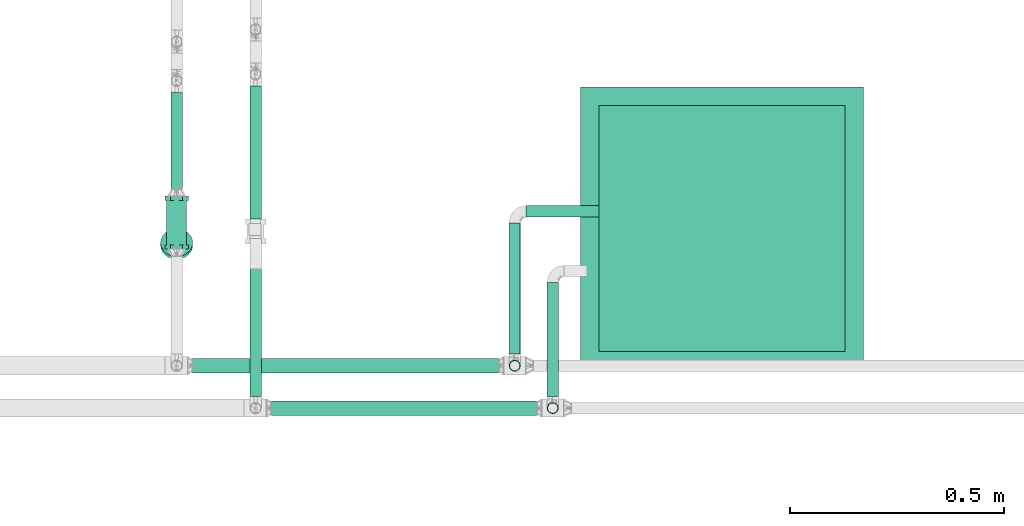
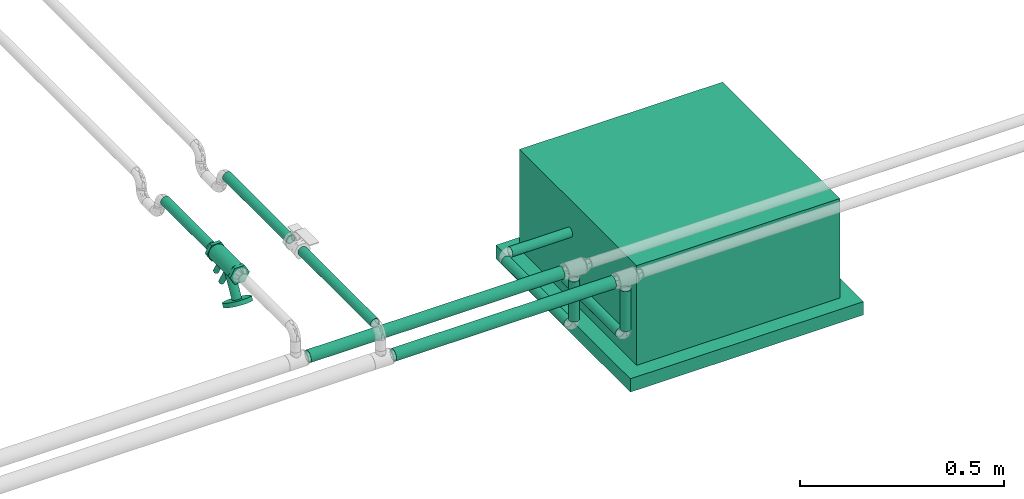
# One storey, part 9 of 35: 10 flow segments, 1 energy conversion device, 1 flow controller.
"""IFC2X3 building model written with IfcOpenShell, lengths in millimetres."""

from ifc_helpers import new_model, entity, si_unit, converted_unit, derived_unit, direction, frame, origin_with_axes, origin_2d_with_axis, place, context, subcontext, project, spatial, hollow_circle, extrude, open_shell, surface_model, source, transform, mapped, type_object, element, save


model = new_model("IFC2X3")

# Units and contexts
model_context = context("Model", 3, precision=0.01, world=frame((0.0, 4.29681676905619e-09, 0.0)), true_north=direction((4.01073788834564e-13, 1.0)))
plan_context = context("Plan", 3, precision=0.01, world=frame((0.0, 4.29681676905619e-09, 0.0)), true_north=direction((4.01073788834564e-13, 1.0)))
body_context = subcontext(model_context, "Body", "Model", "MODEL_VIEW")
ifc_project = project(units=[converted_unit("PLANEANGLEUNIT", "DEGREE", entity("IfcPositiveLengthMeasure", 0.0174532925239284), si_unit("PLANEANGLEUNIT", "RADIAN"), dimensions=[0, 0, 0, 0, 0, 0, 0]), si_unit("AREAUNIT", "SQUARE_METRE"), si_unit("LENGTHUNIT", "METRE", prefix="MILLI"), si_unit("MASSUNIT", "GRAM", prefix="KILO"), si_unit("POWERUNIT", "WATT"), si_unit("PRESSUREUNIT", "PASCAL"), si_unit("FORCEUNIT", "NEWTON", prefix="KILO"), si_unit("ELECTRICVOLTAGEUNIT", "VOLT"), si_unit("ELECTRICCURRENTUNIT", "AMPERE"), si_unit("THERMODYNAMICTEMPERATUREUNIT", "DEGREE_CELSIUS"), si_unit("TIMEUNIT", "SECOND"), si_unit("VOLUMEUNIT", "CUBIC_METRE"), derived_unit("LINEARVELOCITYUNIT", [(si_unit("LENGTHUNIT", "METRE"), 1), (si_unit("TIMEUNIT", "SECOND"), -1)]), derived_unit("VOLUMETRICFLOWRATEUNIT", [(si_unit("VOLUMEUNIT", "CUBIC_METRE"), 1), (si_unit("TIMEUNIT", "SECOND"), -1)]), derived_unit("THERMALTRANSMITTANCEUNIT", [(si_unit("POWERUNIT", "WATT"), 1), (si_unit("THERMODYNAMICTEMPERATUREUNIT", "KELVIN"), -1), (si_unit("AREAUNIT", "SQUARE_METRE"), -1)]), derived_unit("SOUNDPRESSUREUNIT", [(si_unit("PRESSUREUNIT", "PASCAL"), 1)])], contexts=[model_context, plan_context])

# Site, building, storey
site_placement = place(None, frame((0.0, -4.29681676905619e-09, 0.0), z_axis=(0.0, 0.0, 1.0), x_axis=(1.0, 0.0, 0.0)))
site = spatial("IfcSite", under=ifc_project, at=site_placement, Name="ENGM", CompositionType="ELEMENT")
building_placement = place(site_placement, frame((0.0, 4.29681676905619e-09, 0.0), z_axis=(0.0, 0.0, 1.0), x_axis=(1.0, 0.0, 0.0)))
building = spatial("IfcBuilding", under=site, at=building_placement, Name="TH", CompositionType="ELEMENT")
storey_placement = place(building_placement, frame((0.0, 0.0, 210200.0), z_axis=(0.0, 0.0, 1.0), x_axis=(1.0, 0.0, 0.0)))
storey = spatial("IfcBuildingStorey", under=building, at=storey_placement, Name="Nivå F - 0,7 m", CompositionType="ELEMENT", Elevation=210200.0)

# Energy conversion device
coil_type = type_object("IfcCoilType", Name="GCS2.UWW.K01", PredefinedType="WATERHEATINGCOIL")
shared_shape_1 = source(origin_with_axes(), body_context, "Body", "SurfaceModel", [
    surface_model("IfcShellBasedSurfaceModel", [(-329.99999, 329.99999, 0.0), (-329.99999, -329.99999, 0.0), (329.99999, -329.99999, 0.0), (329.99999, 329.99999, 0.0), (329.99999, 329.99999, -40.0), (329.99999, -329.99999, -40.0), (-329.99999, -329.99999, -40.0), (-329.99999, 329.99999, -40.0), (-287.5, 287.5, 25.0), (-287.5, -287.5, 25.0), (287.5, -287.5, 25.0), (287.5, 287.5, 25.0), (287.5, 287.5, 0.0), (287.5, -287.5, 0.0), (-287.5, -287.5, 0.0), (-287.5, 287.5, 0.0), (-287.5, 287.5, 298.0), (-287.5, -287.5, 298.0), (287.5, -287.5, 298.0), (287.5, 287.5, 298.0)], [open_shell([[[0, 1, 2]], [[2, 3, 0]], [[4, 5, 6]], [[6, 7, 4]], [[2, 1, 6]], [[6, 5, 2]], [[3, 2, 5]], [[5, 4, 3]], [[0, 3, 4]], [[4, 7, 0]], [[1, 0, 7]], [[7, 6, 1]], [[8, 9, 10]], [[10, 11, 8]], [[12, 13, 14]], [[14, 15, 12]], [[10, 9, 14]], [[14, 13, 10]], [[11, 10, 13]], [[13, 12, 11]], [[8, 11, 12]], [[12, 15, 8]], [[9, 8, 15]], [[15, 14, 9]], [[16, 17, 18]], [[18, 19, 16]], [[11, 10, 9]], [[9, 8, 11]], [[18, 17, 10]], [[9, 10, 17]], [[19, 18, 11]], [[10, 11, 18]], [[16, 19, 8]], [[11, 8, 19]], [[17, 16, 9]], [[8, 9, 16]]])]),
])
energy_conversion_device_placement = place(storey_placement, frame((901310.0, 481615.40642, 2600.0), z_axis=(0.0, 0.0, 1.0), x_axis=(0.0, -1.0, 0.0)))
element("IfcEnergyConversionDevice", 1, at=energy_conversion_device_placement, inside=storey, type_object=coil_type, Name="GCS2.UWW.K01", context=body_context, shape_type="MappedRepresentation", body=[
    mapped(shared_shape_1, transform((0.0, 0.0, 0.0), scale=1.0)),
])

# Flow controller
valve_type = type_object("IfcValveType", Name="STAD/F-32", PredefinedType="NOTDEFINED")
shared_shape_2 = source(origin_with_axes(), body_context, "Body", "SurfaceModel", [
    surface_model("IfcShellBasedSurfaceModel", [(62.0, 13.86, -24.00622), (62.0, 27.72, 0.0), (62.0, -13.86, -24.00622), (62.0, 13.86, 24.00622), (62.0, -13.86, 24.00622), (62.0, -27.72, 0.0), (52.0, -27.72, 0.0), (52.0, -13.86, 24.00622), (52.0, -13.86, -24.00622), (52.0, 27.72, 0.0), (52.0, 13.86, -24.00622), (52.0, 13.86, 24.00622), (-62.0, -13.86, -24.00622), (-62.0, -27.72, 0.0), (-62.0, 13.86, -24.00622), (-62.0, -13.86, 24.00622), (-62.0, 13.86, 24.00622), (-62.0, 27.72, 0.0), (-52.0, 27.72, 0.0), (-52.0, 13.86, 24.00622), (-52.0, 13.86, -24.00622), (-52.0, -27.72, 0.0), (-52.0, -13.86, -24.00622), (-52.0, -13.86, 24.00622), (61.40539, 36.22222, -86.94584), (69.23797, 32.47595, -82.42369), (75.96396, 26.5165, -78.54045), (36.76202, 32.47595, -101.17369), (84.36936, 9.70571, -73.68759), (81.125, 18.75, -75.56072), (21.63063, -9.70571, -109.90981), (21.63063, 9.70571, -109.90981), (44.5946, 36.22222, -96.65155), (52.99999, 37.5, -91.79869), (30.03603, 26.5165, -105.05695), (24.87499, 18.75, -108.03667), (85.47595, 0.0, -73.0487), (52.99999, -37.5, -91.79869), (84.36936, -9.70571, -73.68759), (81.125, -18.75, -75.56072), (69.23797, -32.47595, -82.42369), (75.96396, -26.5165, -78.54045), (61.40539, -36.22222, -86.94584), (24.87499, -18.75, -108.03667), (20.52404, 0.0, -110.54869), (36.76202, -32.47595, -101.17369), (30.03603, -26.5165, -105.05695), (44.5946, -36.22222, -96.65155), (78.36936, -9.70571, -63.29528), (47.0, -37.5, -81.40639), (55.40539, -36.22222, -76.55353), (63.23797, -32.47595, -72.03139), (75.125, -18.75, -65.16841), (69.96396, -26.5165, -68.14814), (15.63063, -9.70571, -99.5175), (38.5946, -36.22222, -86.25925), (24.03603, -26.5165, -94.66464), (30.76202, -32.47595, -90.78139), (18.87499, -18.75, -97.64437), (15.63063, 9.70571, -99.5175), (14.52404, 0.0, -100.15639), (69.96396, 26.5165, -68.14814), (78.36936, 9.70571, -63.29528), (75.125, 18.75, -65.16841), (63.23797, 32.47595, -72.03139), (55.40539, 36.22222, -76.55353), (30.76202, 32.47595, -90.78139), (18.87499, 18.75, -97.64437), (24.03603, 26.5165, -94.66464), (47.0, 37.5, -81.40639), (38.5946, 36.22222, -86.25925), (79.47595, 0.0, -62.65639), (52.0, 11.55, -20.00519), (52.0, -5.97872, -22.31289), (52.0, 5.97872, -22.31289), (52.0, 20.00519, -11.55), (52.0, 16.33417, -16.33417), (52.0, -22.31289, -5.97872), (52.0, 22.31289, -5.97872), (52.0, -16.33417, 16.33417), (52.0, -11.55, -20.00519), (52.0, 0.0, -23.1), (52.0, -16.33417, -16.33417), (52.0, -20.00519, -11.55), (52.0, 23.1, 0.0), (52.0, 22.31289, 5.97872), (52.0, 20.00519, 11.55), (52.0, 16.33417, 16.33417), (52.0, 11.55, 20.00519), (52.0, 5.97872, 22.31289), (52.0, 0.0, 23.1), (52.0, -22.31289, 5.97872), (52.0, -20.00519, 11.55), (52.0, -23.1, 0.0), (52.0, -5.97872, 22.31289), (52.0, -11.55, 20.00519), (-52.0, 0.0, 23.1), (-52.0, 5.97872, 22.31289), (-52.0, 11.55, 20.00519), (-52.0, -16.33417, 16.33417), (-52.0, 16.33417, 16.33417), (-52.0, 20.00519, 11.55), (-52.0, 22.31289, 5.97872), (-52.0, -5.97872, 22.31289), (-52.0, -11.55, 20.00519), (-52.0, -22.31289, 5.97872), (-52.0, -20.00519, 11.55), (-52.0, -23.1, 0.0), (-52.0, -22.31289, -5.97872), (-52.0, 22.31289, -5.97872), (-52.0, 16.33417, -16.33417), (-52.0, 20.00519, -11.55), (-52.0, -5.97872, -22.31289), (-52.0, 11.55, -20.00519), (-52.0, 0.0, -23.1), (-52.0, 5.97872, -22.31289), (-52.0, -16.33417, -16.33417), (-52.0, -20.00519, -11.55), (-52.0, -11.55, -20.00519), (-52.0, 23.1, 0.0), (-26.24732, 7.24444, -75.15582), (-24.68081, 6.49519, -76.06025), (-23.33561, 5.3033, -76.8369), (-31.176, 6.49519, -72.31025), (-22.3034, 3.75, -77.43284), (-21.65453, 1.94114, -77.80747), (-21.43321, 0.0, -77.93525), (-21.65453, -1.94114, -77.80747), (-33.5534, 3.75, -70.93765), (-27.9284, 7.5, -74.18525), (-29.60948, 7.24444, -73.21468), (-32.5212, 5.3033, -71.5336), (-34.42359, 0.0, -70.43524), (-34.20228, 1.94114, -70.56303), (-22.3034, -3.75, -77.43284), (-23.33561, -5.3033, -76.8369), (-24.68081, -6.49519, -76.06025), (-26.24732, -7.24444, -75.15582), (-27.9284, -7.5, -74.18525), (-29.60948, -7.24444, -73.21468), (-34.20228, -1.94114, -70.56303), (-31.176, -6.49519, -72.31025), (-33.5534, -3.75, -70.93765), (-32.5212, -5.3033, -71.5336), (19.69659, -3.75, -4.68671), (14.07159, -7.5, -1.43911), (15.75267, -7.24444, -2.40968), (18.66439, -5.3033, -4.09076), (17.31919, -6.49519, -3.31411), (9.4788, -5.3033, 1.21254), (8.44659, -3.75, 1.80848), (20.34547, -1.94114, -5.06133), (12.39051, -7.24444, -0.46854), (10.824, -6.49519, 0.43589), (7.79772, -1.94114, 2.18311), (7.79772, 1.94114, 2.18311), (7.5764, 0.0, 2.31089), (10.824, 6.49519, 0.43589), (18.66439, 5.3033, -4.09076), (20.56678, 0.0, -5.18911), (20.34547, 1.94114, -5.06133), (19.69659, 3.75, -4.68671), (17.31919, 6.49519, -3.31411), (15.75267, 7.24444, -2.40968), (9.4788, 5.3033, 1.21254), (8.44659, 3.75, 1.80848), (14.07159, 7.5, -1.43911), (12.39051, 7.24444, -0.46854), (-48.50132, 1.94114, -62.30747), (-53.09411, 7.24444, -59.65582), (-51.5276, 6.49519, -60.56025), (-50.1824, 5.3033, -61.33689), (-61.04906, 1.94114, -55.06303), (-49.15019, 3.75, -61.93284), (-59.36798, -5.3033, -56.0336), (-56.45627, 7.24444, -57.71467), (-54.77519, 7.5, -58.68524), (-58.02278, 6.49519, -56.81025), (-59.36798, 5.3033, -56.0336), (-60.40019, 3.75, -55.43765), (-48.28, 0.0, -62.43525), (-48.50132, -1.94114, -62.30747), (-49.15019, -3.75, -61.93284), (-50.1824, -5.3033, -61.33689), (-53.09411, -7.24444, -59.65582), (-51.5276, -6.49519, -60.56025), (-54.77519, -7.5, -58.68524), (-61.04906, -1.94114, -55.06303), (-60.40019, -3.75, -55.43765), (-61.27038, 0.0, -54.93525), (-56.45627, -7.24444, -57.71467), (-58.02278, -6.49519, -56.81025), (-28.59411, -7.24444, -17.22057), (-34.86799, -5.3033, -13.59835), (-30.27519, -7.5, -16.25), (-25.6824, -5.3033, -18.90165), (-27.0276, -6.49519, -18.125), (-24.65019, -3.75, -19.49759), (-24.00132, -1.94114, -19.87222), (-36.54907, 1.94114, -12.62778), (-31.95627, -7.24444, -15.27943), (-33.52279, -6.49519, -14.375), (-35.90019, -3.75, -13.00241), (-36.54907, -1.94114, -12.62778), (-36.77038, 0.0, -12.5), (-24.00132, 1.94114, -19.87222), (-25.6824, 5.3033, -18.90165), (-24.65019, 3.75, -19.49759), (-27.0276, 6.49519, -18.125), (-28.59411, 7.24444, -17.22057), (-34.86799, 5.3033, -13.59835), (-35.90019, 3.75, -13.00241), (-33.52279, 6.49519, -14.375), (-30.27519, 7.5, -16.25), (-31.95627, 7.24444, -15.27943), (-23.78, 0.0, -20.0), (52.41265, 10.82532, -78.28139), (54.65465, 8.83883, -76.98697), (52.32605, 10.65211, -78.33139), (49.75696, 11.88089, -79.81465), (47.0, 12.3, -81.40639), (49.80179, 12.07407, -79.78877), (47.0, 12.5, -81.40639), (54.53218, 8.69741, -77.05769), (57.45645, 3.23524, -75.36935), (57.65211, 0.0, -75.25639), (57.28914, 3.18347, -75.46595), (57.82531, 0.0, -75.15639), (56.375, 6.25, -75.99373), (56.225, 6.15, -76.08034), (44.24303, 11.88089, -82.99813), (44.1982, 12.07407, -83.02401), (41.67394, 10.65211, -84.48139), (39.34534, 8.83883, -85.82581), (41.58734, 10.82532, -84.53139), (39.46781, 8.69741, -85.75509), (37.77499, 6.15, -86.73244), (37.62499, 6.25, -86.81905), (36.71085, 3.18347, -87.34683), (36.54354, 3.23524, -87.44343), (36.34788, 0.0, -87.55639), (36.17468, 0.0, -87.65639), (57.45645, -3.23524, -75.36935), (57.28914, -3.18347, -75.46595), (56.225, -6.15, -76.08034), (56.375, -6.25, -75.99373), (54.53218, -8.69741, -77.05769), (54.65465, -8.83883, -76.98697), (52.41265, -10.82532, -78.28139), (52.32605, -10.65211, -78.33139), (49.75696, -11.88089, -79.81465), (49.80179, -12.07407, -79.78877), (47.0, -12.3, -81.40639), (47.0, -12.5, -81.40639), (37.62499, -6.25, -86.81905), (37.77499, -6.15, -86.73244), (39.34534, -8.83883, -85.82581), (39.46781, -8.69741, -85.75509), (36.54354, -3.23524, -87.44343), (36.71085, -3.18347, -87.34683), (44.24303, -11.88089, -82.99813), (44.1982, -12.07407, -83.02401), (41.67394, -10.65211, -84.48139), (41.58734, -10.82532, -84.53139), (5.41266, -10.82532, 3.125), (7.65466, -8.83883, 4.41942), (5.32606, -10.65211, 3.075), (2.75697, -11.88089, 1.59174), (0.0, -12.3, 0.0), (2.8018, -12.07407, 1.61762), (0.0, -12.5, 0.0), (7.53218, -8.69741, 4.34871), (10.45645, -3.23524, 6.03704), (10.65211, 0.0, 6.15), (10.28915, -3.18347, 5.94044), (10.82532, 0.0, 6.25), (9.375, -6.25, 5.41266), (9.225, -6.15, 5.32606), (-2.75697, -11.88089, -1.59174), (-2.8018, -12.07407, -1.61762), (-5.32606, -10.65211, -3.075), (-7.65466, -8.83883, -4.41942), (-5.41266, -10.82532, -3.125), (-7.53218, -8.69741, -4.34871), (-9.225, -6.15, -5.32606), (-9.375, -6.25, -5.41266), (-10.28915, -3.18347, -5.94044), (-10.45645, -3.23524, -6.03704), (-10.65211, 0.0, -6.15), (-10.82532, 0.0, -6.25), (10.45645, 3.23524, 6.03704), (10.28915, 3.18347, 5.94044), (9.225, 6.15, 5.32606), (9.375, 6.25, 5.41266), (7.53218, 8.69741, 4.34871), (7.65466, 8.83883, 4.41942), (5.41266, 10.82532, 3.125), (5.32606, 10.65211, 3.075), (2.75697, 11.88089, 1.59174), (2.8018, 12.07407, 1.61762), (0.0, 12.3, 0.0), (0.0, 12.5, 0.0), (-9.375, 6.25, -5.41266), (-9.225, 6.15, -5.32606), (-7.65466, 8.83883, -4.41942), (-7.53218, 8.69741, -4.34871), (-10.45645, 3.23524, -6.03704), (-10.28915, 3.18347, -5.94044), (-2.75697, 11.88089, -1.59174), (-2.8018, 12.07407, -1.61762), (-5.32606, 10.65211, -3.075), (-5.41266, 10.82532, -3.125)], [open_shell([[[0, 1, 2]], [[2, 1, 3]], [[2, 4, 5]], [[4, 2, 3]], [[6, 7, 8]], [[8, 7, 9]], [[9, 10, 8]], [[9, 7, 11]], [[4, 3, 7]], [[11, 7, 3]], [[5, 4, 7]], [[7, 6, 5]], [[2, 5, 6]], [[6, 8, 2]], [[0, 2, 10]], [[8, 10, 2]], [[1, 0, 9]], [[10, 9, 0]], [[3, 1, 11]], [[9, 11, 1]], [[12, 13, 14]], [[14, 13, 15]], [[14, 16, 17]], [[16, 14, 15]], [[18, 19, 20]], [[20, 19, 21]], [[21, 22, 20]], [[21, 19, 23]], [[16, 15, 19]], [[23, 19, 15]], [[17, 16, 19]], [[19, 18, 17]], [[14, 17, 18]], [[18, 20, 14]], [[12, 14, 22]], [[20, 22, 14]], [[13, 12, 21]], [[22, 21, 12]], [[15, 13, 23]], [[21, 23, 13]], [[24, 25, 26]], [[27, 24, 26]], [[27, 26, 28]], [[28, 26, 29]], [[30, 31, 28]], [[24, 32, 33]], [[24, 27, 32]], [[34, 31, 35]], [[31, 34, 27]], [[28, 31, 27]], [[28, 36, 30]], [[37, 38, 39]], [[40, 39, 41]], [[40, 42, 37]], [[40, 37, 39]], [[38, 37, 43]], [[38, 43, 30]], [[44, 31, 30]], [[43, 45, 46]], [[43, 37, 45]], [[45, 37, 47]], [[30, 36, 38]], [[48, 49, 50]], [[48, 50, 51]], [[52, 48, 51]], [[52, 51, 53]], [[49, 48, 54]], [[55, 56, 57]], [[56, 55, 54]], [[56, 54, 58]], [[55, 49, 54]], [[54, 59, 60]], [[54, 48, 61]], [[48, 62, 61]], [[61, 62, 63]], [[61, 64, 65]], [[61, 66, 54]], [[65, 66, 61]], [[67, 66, 68]], [[59, 54, 67]], [[66, 69, 70]], [[67, 54, 66]], [[69, 66, 65]], [[71, 62, 48]], [[59, 31, 60]], [[67, 35, 59]], [[27, 68, 66]], [[67, 68, 34]], [[32, 66, 70]], [[59, 35, 31]], [[31, 44, 60]], [[32, 27, 66]], [[34, 68, 27]], [[34, 35, 67]], [[33, 32, 70]], [[70, 69, 33]], [[65, 24, 69]], [[64, 25, 65]], [[29, 61, 63]], [[64, 61, 26]], [[28, 63, 62]], [[64, 26, 25]], [[25, 24, 65]], [[36, 28, 62]], [[29, 63, 28]], [[29, 26, 61]], [[71, 36, 62]], [[69, 24, 33]], [[48, 38, 71]], [[52, 39, 48]], [[40, 53, 51]], [[52, 53, 41]], [[42, 51, 50]], [[48, 39, 38]], [[38, 36, 71]], [[42, 40, 51]], [[41, 53, 40]], [[41, 39, 52]], [[37, 42, 50]], [[50, 49, 37]], [[55, 47, 49]], [[57, 45, 55]], [[43, 56, 58]], [[57, 56, 46]], [[30, 58, 54]], [[57, 46, 45]], [[45, 47, 55]], [[44, 30, 54]], [[43, 58, 30]], [[43, 46, 56]], [[60, 44, 54]], [[49, 47, 37]], [[72, 73, 74]], [[75, 72, 76]], [[77, 72, 78]], [[78, 72, 75]], [[79, 77, 78]], [[73, 77, 80]], [[73, 81, 74]], [[82, 77, 83]], [[77, 82, 80]], [[72, 77, 73]], [[78, 84, 79]], [[85, 86, 87]], [[85, 87, 88]], [[88, 89, 90]], [[85, 88, 79]], [[79, 88, 90]], [[91, 79, 92]], [[91, 93, 77]], [[79, 94, 95]], [[77, 79, 91]], [[90, 94, 79]], [[79, 84, 85]], [[96, 97, 98]], [[99, 96, 98]], [[100, 101, 102]], [[100, 102, 98]], [[99, 98, 102]], [[103, 99, 104]], [[103, 96, 99]], [[99, 105, 106]], [[107, 105, 108]], [[105, 99, 108]], [[99, 102, 108]], [[108, 102, 109]], [[110, 109, 111]], [[112, 109, 113]], [[113, 109, 110]], [[114, 113, 115]], [[108, 116, 117]], [[116, 108, 118]], [[108, 112, 118]], [[108, 109, 112]], [[113, 114, 112]], [[109, 102, 119]], [[77, 108, 117]], [[116, 83, 117]], [[80, 118, 112]], [[116, 118, 82]], [[73, 112, 114]], [[108, 93, 107]], [[108, 77, 93]], [[117, 83, 77]], [[116, 82, 83]], [[80, 82, 118]], [[112, 73, 80]], [[114, 81, 73]], [[74, 115, 113]], [[110, 72, 113]], [[75, 111, 109]], [[110, 111, 76]], [[78, 109, 119]], [[115, 74, 81]], [[113, 72, 74]], [[110, 76, 72]], [[111, 75, 76]], [[78, 75, 109]], [[119, 84, 78]], [[115, 81, 114]], [[119, 102, 85]], [[88, 98, 97]], [[98, 87, 100]], [[96, 89, 97]], [[119, 85, 84]], [[85, 102, 101]], [[85, 101, 86]], [[101, 100, 86]], [[86, 100, 87]], [[87, 98, 88]], [[97, 89, 88]], [[96, 90, 89]], [[94, 103, 104]], [[99, 95, 104]], [[92, 106, 105]], [[99, 106, 79]], [[91, 105, 107]], [[103, 94, 90]], [[104, 95, 94]], [[99, 79, 95]], [[106, 92, 79]], [[91, 92, 105]], [[107, 93, 91]], [[103, 90, 96]], [[120, 121, 122]], [[123, 120, 122]], [[124, 125, 126]], [[124, 126, 122]], [[127, 128, 122]], [[129, 123, 130]], [[129, 120, 123]], [[123, 128, 131]], [[122, 128, 123]], [[128, 132, 133]], [[127, 122, 126]], [[127, 134, 135]], [[127, 135, 136]], [[136, 137, 138]], [[136, 138, 127]], [[127, 138, 139]], [[140, 141, 142]], [[132, 128, 140]], [[142, 141, 143]], [[141, 140, 139]], [[127, 139, 140]], [[140, 128, 127]], [[144, 145, 146]], [[147, 146, 148]], [[145, 144, 149]], [[144, 146, 147]], [[150, 144, 151]], [[152, 149, 153]], [[152, 145, 149]], [[144, 150, 149]], [[154, 150, 151]], [[154, 155, 156]], [[154, 151, 157]], [[158, 159, 160]], [[158, 160, 161]], [[158, 162, 163]], [[163, 151, 158]], [[163, 157, 151]], [[155, 164, 165]], [[164, 155, 157]], [[157, 166, 167]], [[155, 154, 157]], [[163, 166, 157]], [[158, 151, 159]], [[155, 133, 156]], [[165, 128, 155]], [[123, 164, 157]], [[165, 164, 131]], [[130, 157, 167]], [[155, 128, 133]], [[133, 132, 156]], [[130, 123, 157]], [[131, 164, 123]], [[131, 128, 165]], [[129, 130, 167]], [[167, 166, 129]], [[163, 120, 166]], [[162, 121, 163]], [[124, 158, 161]], [[162, 158, 122]], [[125, 161, 160]], [[162, 122, 121]], [[121, 120, 163]], [[126, 125, 160]], [[124, 161, 125]], [[124, 122, 158]], [[159, 126, 160]], [[166, 120, 129]], [[151, 127, 159]], [[144, 134, 151]], [[136, 147, 148]], [[144, 147, 135]], [[137, 148, 146]], [[159, 127, 126]], [[151, 134, 127]], [[138, 137, 146]], [[134, 144, 135]], [[137, 136, 148]], [[147, 136, 135]], [[146, 145, 138]], [[152, 139, 145]], [[153, 141, 152]], [[153, 149, 141]], [[149, 150, 143]], [[139, 152, 141]], [[141, 149, 143]], [[154, 140, 142]], [[140, 154, 132]], [[154, 156, 132]], [[142, 143, 150]], [[142, 150, 154]], [[145, 139, 138]], [[168, 169, 170]], [[168, 170, 171]], [[169, 168, 172]], [[168, 171, 173]], [[174, 172, 168]], [[169, 175, 176]], [[169, 177, 175]], [[178, 172, 179]], [[172, 178, 177]], [[169, 172, 177]], [[168, 180, 181]], [[181, 182, 183]], [[168, 183, 174]], [[183, 184, 174]], [[184, 183, 185]], [[186, 174, 184]], [[187, 174, 188]], [[189, 172, 187]], [[174, 190, 191]], [[172, 174, 187]], [[186, 190, 174]], [[181, 183, 168]], [[192, 193, 194]], [[195, 192, 196]], [[195, 197, 198]], [[193, 192, 199]], [[199, 192, 195]], [[200, 193, 201]], [[200, 194, 193]], [[193, 199, 202]], [[199, 203, 202]], [[203, 199, 204]], [[198, 205, 195]], [[199, 195, 205]], [[206, 205, 207]], [[208, 209, 205]], [[208, 205, 206]], [[199, 205, 209]], [[199, 210, 211]], [[210, 199, 212]], [[212, 213, 214]], [[212, 199, 209]], [[209, 213, 212]], [[205, 198, 215]], [[199, 172, 204]], [[211, 179, 199]], [[177, 210, 212]], [[211, 210, 178]], [[175, 212, 214]], [[199, 179, 172]], [[172, 189, 204]], [[175, 177, 212]], [[178, 210, 177]], [[178, 179, 211]], [[176, 175, 214]], [[214, 213, 176]], [[209, 169, 213]], [[208, 170, 209]], [[173, 206, 207]], [[208, 206, 171]], [[168, 207, 205]], [[208, 171, 170]], [[170, 169, 209]], [[180, 168, 205]], [[173, 207, 168]], [[173, 171, 206]], [[215, 180, 205]], [[213, 169, 176]], [[198, 181, 215]], [[197, 182, 198]], [[185, 195, 196]], [[197, 195, 183]], [[184, 196, 192]], [[198, 182, 181]], [[181, 180, 215]], [[184, 185, 196]], [[183, 195, 185]], [[183, 182, 197]], [[186, 184, 192]], [[192, 194, 186]], [[200, 190, 194]], [[201, 191, 200]], [[188, 193, 202]], [[201, 193, 174]], [[187, 202, 203]], [[201, 174, 191]], [[191, 190, 200]], [[189, 187, 203]], [[188, 202, 187]], [[188, 174, 193]], [[204, 189, 203]], [[194, 190, 186]], [[216, 217, 218]], [[216, 218, 219]], [[220, 221, 219]], [[221, 220, 222]], [[219, 221, 216]], [[218, 217, 223]], [[224, 225, 226]], [[225, 224, 227]], [[224, 226, 228]], [[223, 228, 229]], [[228, 223, 217]], [[229, 228, 226]], [[222, 230, 231]], [[231, 230, 232]], [[233, 234, 235]], [[232, 234, 231]], [[232, 235, 234]], [[222, 220, 230]], [[236, 237, 233]], [[237, 236, 238]], [[236, 233, 235]], [[239, 238, 240]], [[238, 239, 237]], [[239, 240, 241]], [[227, 242, 243]], [[243, 242, 244]], [[244, 245, 246]], [[245, 244, 242]], [[246, 245, 247]], [[247, 248, 249]], [[249, 248, 250]], [[250, 251, 252]], [[251, 250, 248]], [[252, 251, 253]], [[249, 246, 247]], [[254, 255, 256]], [[256, 255, 257]], [[255, 254, 258]], [[241, 259, 258]], [[258, 259, 255]], [[241, 240, 259]], [[260, 253, 261]], [[260, 261, 262]], [[257, 263, 256]], [[257, 262, 263]], [[263, 262, 261]], [[252, 253, 260]], [[243, 225, 227]], [[264, 265, 266]], [[264, 266, 267]], [[268, 269, 267]], [[269, 268, 270]], [[267, 269, 264]], [[266, 265, 271]], [[272, 273, 274]], [[273, 272, 275]], [[272, 274, 276]], [[271, 276, 277]], [[276, 271, 265]], [[277, 276, 274]], [[270, 278, 279]], [[279, 278, 280]], [[281, 282, 283]], [[280, 282, 279]], [[280, 283, 282]], [[270, 268, 278]], [[284, 285, 281]], [[285, 284, 286]], [[284, 281, 283]], [[287, 286, 288]], [[286, 287, 285]], [[287, 288, 289]], [[275, 290, 291]], [[291, 290, 292]], [[292, 293, 294]], [[293, 292, 290]], [[294, 293, 295]], [[295, 296, 297]], [[297, 296, 298]], [[298, 299, 300]], [[299, 298, 296]], [[300, 299, 301]], [[297, 294, 295]], [[302, 303, 304]], [[304, 303, 305]], [[303, 302, 306]], [[289, 307, 306]], [[306, 307, 303]], [[289, 288, 307]], [[308, 301, 309]], [[308, 309, 310]], [[305, 311, 304]], [[305, 310, 311]], [[311, 310, 309]], [[300, 301, 308]], [[291, 273, 275]], [[306, 239, 289]], [[302, 237, 306]], [[234, 304, 311]], [[302, 304, 233]], [[231, 311, 309]], [[306, 237, 239]], [[239, 241, 289]], [[231, 234, 311]], [[233, 304, 234]], [[233, 237, 302]], [[222, 231, 309]], [[309, 301, 222]], [[299, 221, 301]], [[296, 216, 299]], [[228, 295, 293]], [[296, 295, 217]], [[224, 293, 290]], [[296, 217, 216]], [[216, 221, 299]], [[227, 224, 290]], [[228, 293, 224]], [[228, 217, 295]], [[275, 227, 290]], [[301, 221, 222]], [[272, 242, 275]], [[276, 245, 272]], [[248, 265, 264]], [[276, 265, 247]], [[251, 264, 269]], [[275, 242, 227]], [[272, 245, 242]], [[248, 264, 251]], [[276, 247, 245]], [[265, 248, 247]], [[269, 253, 251]], [[269, 270, 253]], [[279, 261, 270]], [[282, 263, 279]], [[282, 281, 256]], [[281, 285, 256]], [[261, 279, 263]], [[263, 282, 256]], [[258, 287, 241]], [[287, 258, 254]], [[287, 289, 241]], [[254, 256, 285]], [[254, 285, 287]], [[270, 261, 253]], [[288, 238, 307]], [[307, 236, 303]], [[235, 305, 303]], [[232, 310, 305]], [[238, 236, 307]], [[288, 240, 238]], [[232, 230, 308]], [[308, 230, 220]], [[232, 305, 235]], [[303, 236, 235]], [[232, 308, 310]], [[220, 300, 308]], [[297, 298, 219]], [[297, 218, 294]], [[291, 292, 229]], [[223, 292, 294]], [[273, 291, 226]], [[298, 220, 219]], [[218, 297, 219]], [[229, 292, 223]], [[291, 229, 226]], [[223, 294, 218]], [[226, 225, 273]], [[300, 220, 298]], [[273, 243, 274]], [[274, 244, 277]], [[266, 271, 249]], [[246, 271, 277]], [[267, 266, 249]], [[243, 244, 274]], [[273, 225, 243]], [[252, 268, 250]], [[267, 249, 250]], [[249, 271, 246]], [[277, 244, 246]], [[267, 250, 268]], [[280, 278, 260]], [[280, 262, 283]], [[286, 284, 255]], [[257, 284, 283]], [[288, 286, 259]], [[260, 268, 252]], [[280, 260, 262]], [[255, 284, 257]], [[286, 255, 259]], [[257, 283, 262]], [[240, 288, 259]], [[278, 268, 260]]])]),
])
flow_controller_placement = place(storey_placement, frame((900037.00487, 481629.33362, 3070.04999999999), z_axis=(0.0, 0.0, 1.0), x_axis=(0.0, -1.0, 0.0)))
element("IfcFlowController", 2, at=flow_controller_placement, inside=storey, type_object=valve_type, Name="STAD/F-32", context=body_context, shape_type="MappedRepresentation", body=[
    mapped(shared_shape_2, transform((0.0, 0.0, 0.0), scale=1.0)),
])

# Flow segments
pipe_segment_type = type_object("IfcPipeSegmentType", Name="Stålrør normaltykke", PredefinedType="RIGIDSEGMENT")
shared_shape_3 = source(origin_with_axes(), body_context, "Body", "SweptSolid", [
    extrude(hollow_circle(Radius=13.3, WallThickness=2.0, at=origin_2d_with_axis()), frame((0.0, 0.0, 0.0), z_axis=(1.0, 0.0, 0.0), x_axis=(0.0, 1.0, 0.0)), (0.0, 0.0, 1.0), 306.4),
])
flow_segment_1_placement = place(storey_placement, frame((900826.07965, 481322.16097, 2800.0), z_axis=(0.0, 0.0, 1.0), x_axis=(0.0, 1.0, 0.0)))
element("IfcFlowSegment", 3, at=flow_segment_1_placement, inside=storey, type_object=pipe_segment_type, Name="Stålrør normaltykke", context=body_context, shape_type="MappedRepresentation", body=[
    mapped(shared_shape_3, transform((0.0, 0.0, 0.0), scale=1.0)),
])
shared_shape_4 = source(origin_with_axes(), body_context, "Body", "SweptSolid", [
    extrude(hollow_circle(Radius=13.3, WallThickness=2.0, at=origin_2d_with_axis()), frame((0.0, 0.0, 0.0), z_axis=(1.0, 0.0, 0.0), x_axis=(0.0, 1.0, 0.0)), (0.0, 0.0, 1.0), 120.2),
])
for number, where, z_axis, x_axis in (
    (4, (900826.07965, 481295.36097, 2947.0), (0.0, 1.0, 0.0), (0.0, 0.0, -1.0)),
    (5, (900914.78846, 481196.37011, 2947.0), (0.0, 1.0, 0.0), (0.0, 0.0, -1.0)),
):
    element("IfcFlowSegment", number, at=place(storey_placement, frame(where, z_axis=z_axis, x_axis=x_axis)), inside=storey, type_object=pipe_segment_type, Name="Stålrør normaltykke", context=body_context, shape_type="MappedRepresentation", body=[
        mapped(shared_shape_4, transform((0.0, 0.0, 0.0), scale=1.0)),
    ])
shared_shape_5 = source(origin_with_axes(), body_context, "Body", "SweptSolid", [
    extrude(hollow_circle(Radius=16.9, WallThickness=2.0, at=origin_2d_with_axis()), frame((0.0, 0.0, 0.0), z_axis=(1.0, 0.0, 0.0), x_axis=(0.0, 1.0, 0.0)), (0.0, 0.0, 1.0), 718.3),
])
flow_segment_2_placement = place(storey_placement, frame((900072.40487, 481295.36097, 2978.79999999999), z_axis=(0.0, 0.0, 1.0), x_axis=(1.0, 0.0, 0.0)))
element("IfcFlowSegment", 6, at=flow_segment_2_placement, inside=storey, type_object=pipe_segment_type, Name="Stålrør normaltykke", context=body_context, shape_type="MappedRepresentation", body=[
    mapped(shared_shape_5, transform((0.0, 0.0, 0.0), scale=1.0)),
])
shared_shape_6 = source(origin_with_axes(), body_context, "Body", "SweptSolid", [
    extrude(hollow_circle(Radius=13.3, WallThickness=2.0, at=origin_2d_with_axis()), frame((0.0, 0.0, 0.0), z_axis=(1.0, 0.0, 0.0), x_axis=(0.0, 1.0, 0.0)), (0.0, 0.0, 1.0), 169.6),
])
flow_segment_3_placement = place(storey_placement, frame((900852.87965, 481655.36097, 2800.0), z_axis=(0.0, 0.0, 1.0), x_axis=(1.0, 0.0, 0.0)))
element("IfcFlowSegment", 7, at=flow_segment_3_placement, inside=storey, type_object=pipe_segment_type, Name="Stålrør normaltykke", context=body_context, shape_type="MappedRepresentation", body=[
    mapped(shared_shape_6, transform((0.0, 0.0, 0.0), scale=1.0)),
])
shared_shape_7 = source(origin_with_axes(), body_context, "Body", "SweptSolid", [
    extrude(hollow_circle(Radius=13.3, WallThickness=2.0, at=origin_2d_with_axis()), frame((0.0, 0.0, 0.0), z_axis=(1.0, 0.0, 0.0), x_axis=(0.0, 1.0, 0.0)), (0.0, 0.0, 1.0), 266.4),
])
flow_segment_4_placement = place(storey_placement, frame((900914.78846, 481223.17011, 2800.0), z_axis=(0.0, 0.0, 1.0), x_axis=(0.0, 1.0, 0.0)))
element("IfcFlowSegment", 8, at=flow_segment_4_placement, inside=storey, type_object=pipe_segment_type, Name="Stålrør normaltykke", context=body_context, shape_type="MappedRepresentation", body=[
    mapped(shared_shape_7, transform((0.0, 0.0, 0.0), scale=1.0)),
])
shared_shape_8 = source(origin_with_axes(), body_context, "Body", "SweptSolid", [
    extrude(hollow_circle(Radius=16.9, WallThickness=2.0, at=origin_2d_with_axis()), frame((0.0, 0.0, 0.0), z_axis=(1.0, 0.0, 0.0), x_axis=(0.0, 1.0, 0.0)), (0.0, 0.0, 1.0), 622.8),
])
flow_segment_5_placement = place(storey_placement, frame((900256.6, 481196.37011, 2978.79999999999), z_axis=(0.0, 0.0, 1.0), x_axis=(1.0, 0.0, 0.0)))
element("IfcFlowSegment", 9, at=flow_segment_5_placement, inside=storey, type_object=pipe_segment_type, Name="Stålrør normaltykke", context=body_context, shape_type="MappedRepresentation", body=[
    mapped(shared_shape_8, transform((0.0, 0.0, 0.0), scale=1.0)),
])
shared_shape_9 = source(origin_with_axes(), body_context, "Body", "SweptSolid", [
    extrude(hollow_circle(Radius=13.3, WallThickness=2.0, at=origin_2d_with_axis()), frame((0.0, 0.0, 0.0), z_axis=(1.0, 0.0, 0.0), x_axis=(0.0, 1.0, 0.0)), (0.0, 0.0, 1.0), 356.1),
])
flow_segment_6_placement = place(storey_placement, frame((900221.2, 481223.17011, 3070.04999999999), z_axis=(0.0, 0.0, 1.0), x_axis=(0.0, 1.0, 0.0)))
element("IfcFlowSegment", 10, at=flow_segment_6_placement, inside=storey, type_object=pipe_segment_type, Name="Stålrør normaltykke", context=body_context, shape_type="MappedRepresentation", body=[
    mapped(shared_shape_9, transform((0.0, 0.0, 0.0), scale=1.0)),
])
shared_shape_10 = source(origin_with_axes(), body_context, "Body", "SweptSolid", [
    extrude(hollow_circle(Radius=13.3, WallThickness=2.0, at=origin_2d_with_axis()), frame((0.0, 0.0, 0.0), z_axis=(1.0, 0.0, 0.0), x_axis=(0.0, 1.0, 0.0)), (0.0, 0.0, 1.0), 226.6),
])
flow_segment_7_placement = place(storey_placement, frame((900037.00487, 481706.93362, 3070.04999999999), z_axis=(0.0, 0.0, 1.0), x_axis=(0.0, 1.0, 0.0)))
element("IfcFlowSegment", 11, at=flow_segment_7_placement, inside=storey, type_object=pipe_segment_type, Name="Stålrør normaltykke", context=body_context, shape_type="MappedRepresentation", body=[
    mapped(shared_shape_10, transform((0.0, 0.0, 0.0), scale=1.0)),
])
shared_shape_11 = source(origin_with_axes(), body_context, "Body", "SweptSolid", [
    extrude(hollow_circle(Radius=13.3, WallThickness=2.0, at=origin_2d_with_axis()), frame((0.0, 0.0, 0.0), z_axis=(1.0, 0.0, 0.0), x_axis=(0.0, 1.0, 0.0)), (0.0, 0.0, 1.0), 311.1),
])
flow_segment_8_placement = place(storey_placement, frame((900221.2, 481637.31097, 3070.04999999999), z_axis=(0.0, 0.0, 1.0), x_axis=(0.0, 1.0, 0.0)))
element("IfcFlowSegment", 12, at=flow_segment_8_placement, inside=storey, type_object=pipe_segment_type, Name="Stålrør normaltykke", context=body_context, shape_type="MappedRepresentation", body=[
    mapped(shared_shape_11, transform((0.0, 0.0, 0.0), scale=1.0)),
])

save(model, "model.ifc")
